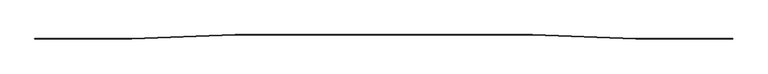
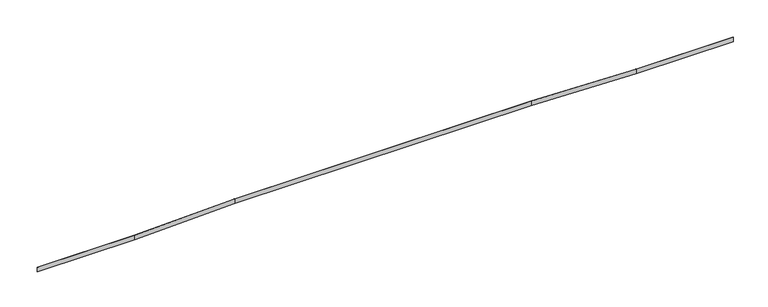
"""IFC4 building model written with IfcOpenShell, lengths in millimetres: proxy geometry, CapBWFiller.sat."""

import ifcopenshell
import ifcopenshell.guid

model = None  # the IFC model being written
_history = None  # IfcOwnerHistory: only IFC2X3 demands one
_inside = {}  # id of a spatial element -> (the spatial element, [elements in it])
_under = {}  # id of a project, library or spatial element -> (it, [spatial elements below it])
_declared = {}  # id of a project -> (the project, [libraries it declares])
_typed = {}  # id of a type object -> (the type object, [elements of that type])
_made_of = {}  # id of a material, layer set ... -> (it, [elements and type objects made of it])


def new_model(schema):
    """Start an empty IFC model of exactly this schema.

    Asked for "IFC4X3", IfcOpenShell would pick the latest addendum, in which some entities
    have other attributes; the version numbers below select the first issue.
    IFC2X3 requires an IfcOwnerHistory on every rooted entity: one is made here for all.
    """
    global model, _history
    if schema == "IFC4X3":
        model = ifcopenshell.file(schema_version=(4, 3, 0, 0))
    else:
        model = ifcopenshell.file(schema=schema)
    _inside.clear()
    _under.clear()
    _declared.clear()
    _typed.clear()
    _made_of.clear()
    _history = None
    if model.schema == "IFC2X3":
        org = make("IfcOrganization", Name="unknown")
        user = make(
            "IfcPersonAndOrganization",
            ThePerson=make("IfcPerson", FamilyName="unknown"),
            TheOrganization=org,
        )
        app = make(
            "IfcApplication",
            ApplicationDeveloper=org,
            Version="unknown",
            ApplicationFullName="unknown",
            ApplicationIdentifier="unknown",
        )
        _history = make(
            "IfcOwnerHistory",
            OwningUser=user,
            OwningApplication=app,
            ChangeAction="ADDED",
            CreationDate=0,
        )
    return model


def make(cls, **values):
    """One entity of the class cls with the attributes given. An attribute that is None is left unset."""
    return model.create_entity(
        cls, **{name: value for name, value in values.items() if value is not None}
    )


def rooted(cls, **values):
    """An entity with a GlobalId (a new one), such as an element, a storey or a relation."""
    return make(cls, GlobalId=ifcopenshell.guid.new(), OwnerHistory=_history, **values)


def si_unit(unit_type, name, prefix=None):
    """IfcSIUnit, for example si_unit("LENGTHUNIT", "METRE", prefix="MILLI")."""
    return make("IfcSIUnit", UnitType=unit_type, Prefix=prefix, Name=name)


def assignment(units):
    """IfcUnitAssignment: the units of a project."""
    return None if units is None else make("IfcUnitAssignment", Units=units)


def point(xyz):
    """IfcCartesianPoint."""
    return None if xyz is None else make("IfcCartesianPoint", Coordinates=xyz)


def direction(xyz):
    """IfcDirection."""
    return None if xyz is None else make("IfcDirection", DirectionRatios=xyz)


def frame(location, z_axis=None, x_axis=None):
    """IfcAxis2Placement3D, a coordinate frame: its origin and axes. An axis left out is left unset."""
    return make(
        "IfcAxis2Placement3D",
        Location=point(location),
        Axis=direction(z_axis),
        RefDirection=direction(x_axis),
    )


def origin():
    """The frame at (0, 0, 0) with its axes left unset."""
    return frame((0.0, 0.0, 0.0))


def place(relative_to, where):
    """IfcLocalPlacement: puts the frame where relative to a parent placement (None: the world)."""
    return make(
        "IfcLocalPlacement", PlacementRelTo=relative_to, RelativePlacement=where
    )


def context(
    kind, dimensions, precision=None, world=None, true_north=None, identifier=None
):
    """IfcGeometricRepresentationContext, for example the 3D "Model" context."""
    return make(
        "IfcGeometricRepresentationContext",
        ContextIdentifier=identifier,
        ContextType=kind,
        CoordinateSpaceDimension=dimensions,
        Precision=precision,
        WorldCoordinateSystem=world,
        TrueNorth=true_north,
    )


def project(units=None, contexts=None):
    """IfcProject with its units and contexts."""
    return rooted(
        "IfcProject",
        Name="project",
        RepresentationContexts=contexts,
        UnitsInContext=assignment(units),
    )


def spatial(cls, under=None, at=None, **own):
    """A site, building, storey or space (cls), placed at a placement, below another one or the project."""
    s = rooted(cls, ObjectPlacement=at, **own)
    if under is not None:
        _under.setdefault(under.id(), (under, []))[1].append(s)
    return s


def polyline(points):
    """IfcPolyline through the points."""
    return make("IfcPolyline", Points=[point(p) for p in points])


def outline(outer, holes=None, kind="AREA"):
    """IfcArbitraryClosedProfileDef: a profile drawn as a closed curve; with holes, ...WithVoids."""
    if holes is None:
        return make("IfcArbitraryClosedProfileDef", ProfileType=kind, OuterCurve=outer)
    return make(
        "IfcArbitraryProfileDefWithVoids",
        ProfileType=kind,
        OuterCurve=outer,
        InnerCurves=holes,
    )


def extrude(swept, where, along, depth):
    """IfcExtrudedAreaSolid: the profile swept, set in the frame where, extruded along a direction by depth."""
    return make(
        "IfcExtrudedAreaSolid",
        SweptArea=swept,
        Position=where,
        ExtrudedDirection=direction(along),
        Depth=depth,
    )


def shape(context_of_items, identifier, shape_type, items):
    """IfcShapeRepresentation: the items that make up one representation, for example the "Body"."""
    return make(
        "IfcShapeRepresentation",
        ContextOfItems=context_of_items,
        RepresentationIdentifier=identifier,
        RepresentationType=shape_type,
        Items=items,
    )


def source(mapping_origin, context_of_items, identifier, shape_type, items):
    """IfcRepresentationMap: a shape defined once, which mapped items show again and again."""
    return make(
        "IfcRepresentationMap",
        MappingOrigin=mapping_origin,
        MappedRepresentation=shape(context_of_items, identifier, shape_type, items),
    )


def transform(
    local_origin,
    x_axis=None,
    y_axis=None,
    z_axis=None,
    scale=None,
    scale2=None,
    scale3=None,
    uniform=True,
):
    """IfcCartesianTransformationOperator3D, or its non-uniform kind. x_axis, y_axis, z_axis: its Axis1, 2, 3."""
    if uniform:
        return make(
            "IfcCartesianTransformationOperator3D",
            Axis1=direction(x_axis),
            Axis2=direction(y_axis),
            LocalOrigin=point(local_origin),
            Scale=scale,
            Axis3=direction(z_axis),
        )
    return make(
        "IfcCartesianTransformationOperator3DnonUniform",
        Axis1=direction(x_axis),
        Axis2=direction(y_axis),
        LocalOrigin=point(local_origin),
        Scale=scale,
        Axis3=direction(z_axis),
        Scale2=scale2,
        Scale3=scale3,
    )


def mapped(mapping_source, mapping_target):
    """IfcMappedItem: shows the shape of a source again, moved by a transform."""
    return make(
        "IfcMappedItem", MappingSource=mapping_source, MappingTarget=mapping_target
    )


def made_of(thing, what):
    """Note that an element or type object is made of a material, layer set ...; save() writes the relation."""
    if what is not None:
        _made_of.setdefault(what.id(), (what, []))[1].append(thing)
    return thing


def element(
    cls,
    number,
    at=None,
    inside=None,
    cuts=None,
    type_object=None,
    material=None,
    context=None,
    identifier="Body",
    shape_type=None,
    held_by="IfcProductDefinitionShape",
    body=None,
    shapes=None,
    **own,
):
    """One element of the class cls, such as IfcWall. Its Tag is "e" and its number.

    at: its placement. inside: the storey or other place that contains it. cuts: it is an
    opening in that element (IfcRelVoidsElement). A single representation is given by context,
    identifier, shape_type and body (its items); several are given by shapes. held_by: the class
    of the entity that holds the representations. save() writes the other relations.
    """
    e = rooted(cls, Tag="e%d" % number, ObjectPlacement=at, **own)
    if body is not None:
        shapes = [shape(context, identifier, shape_type, body)]
    if shapes is not None:
        e.Representation = make(held_by, Representations=shapes)
    if inside is not None:
        _inside.setdefault(inside.id(), (inside, []))[1].append(e)
    if cuts is not None:
        rooted(
            "IfcRelVoidsElement", RelatingBuildingElement=cuts, RelatedOpeningElement=e
        )
    if type_object is not None:
        _typed.setdefault(type_object.id(), (type_object, []))[1].append(e)
    return made_of(e, material)


def aggregate(whole, parts):
    """IfcRelAggregates: a whole, such as a stair, and the parts it consists of."""
    return rooted("IfcRelAggregates", RelatingObject=whole, RelatedObjects=parts)


def save(model, path):
    """Write the relations noted so far, then the file.

    IfcRelAggregates (storeys below a building ...), IfcRelContainedInSpatialStructure (elements
    in a storey), IfcRelDefinesByType, IfcRelAssociatesMaterial and IfcRelDeclares: one each for
    every whole, place, type object, material and project.
    """
    for whole, parts in _under.values():
        aggregate(whole, parts)
    for where, things in _inside.values():
        rooted(
            "IfcRelContainedInSpatialStructure",
            RelatedElements=things,
            RelatingStructure=where,
        )
    for kind, things in _typed.values():
        rooted("IfcRelDefinesByType", RelatedObjects=things, RelatingType=kind)
    for what, things in _made_of.values():
        rooted("IfcRelAssociatesMaterial", RelatedObjects=things, RelatingMaterial=what)
    for by, libraries in _declared.values():
        rooted("IfcRelDeclares", RelatingContext=by, RelatedDefinitions=libraries)
    model.write(path)


def generic_models_738b546a(model_context):
    return source(origin(), model_context, "Body", "SweptSolid", [
        extrude(outline(polyline([(3962.5190207, 6.35), (5486.4, 6.35), (5486.4, 0.0), (3962.4, 0.0), (2336.8, 60.96), (-2336.8, 60.96), (-3962.4, 0.0), (-5486.4, 0.0), (-5486.4, 6.35), (-3962.5190207, 6.35), (-2336.9190207, 67.31), (2336.9190207, 67.31), (3962.5190207, 6.35)])), frame((0.0, 0.0, -76.2), z_axis=(0.0, 0.0, 1.0), x_axis=(1.0, 0.0, 0.0)), (0.0, 0.0, 1.0), 76.2),
    ])


if __name__ == "__main__":
    model = new_model("IFC4")
    model_context = context("Model", 3, world=origin())
    ifc_project = project(units=[si_unit("LENGTHUNIT", "METRE", prefix="MILLI")], contexts=[model_context])
    site = spatial("IfcSite", under=ifc_project)
    building = spatial("IfcBuilding", under=site)
    placement = place(None, origin())
    generic_models_shape = generic_models_738b546a(model_context)
    element("IfcBuildingElementProxy", 1, Name="CapBWFiller.sat", ObjectType="CapBWFiller.sat", at=placement, inside=building, context=model_context, shape_type="MappedRepresentation", body=[
        mapped(generic_models_shape, transform((0.0, 0.0, 0.0), x_axis=(1.0, 0.0, 0.0), y_axis=(0.0, 1.0, 0.0), z_axis=(0.0, 0.0, 1.0))),
    ])
    save(model, "model.ifc")
